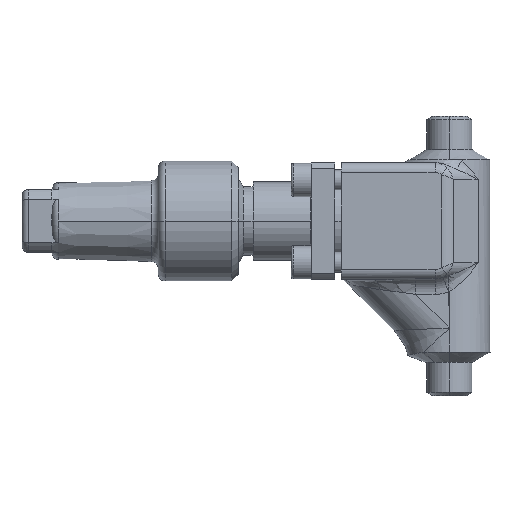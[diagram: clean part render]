
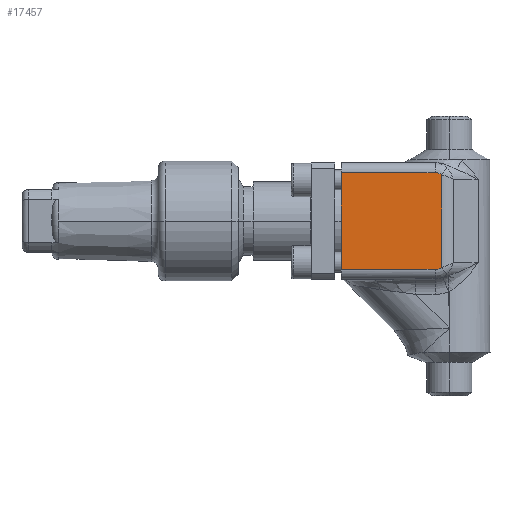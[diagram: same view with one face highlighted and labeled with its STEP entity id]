
A CAD part, left-side view. The second image highlights one B-rep face of the part: STEP entity #17457.
In plain terms, the highlighted planar face has unit normal (-1, 0, 0).
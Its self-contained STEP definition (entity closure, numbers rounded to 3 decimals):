
#16419 = EDGE_CURVE ( 'NONE', #7406, #16323, #3726, .T. ) ;
#16508 = ORIENTED_EDGE ( 'NONE', *, *, #16419, .T. ) ;
#174 = VERTEX_POINT ( 'NONE', #14488 ) ;
#392 = EDGE_CURVE ( 'NONE', #1266, #174, #14590, .T. ) ;
#515 = EDGE_CURVE ( 'NONE', #16323, #16214, #14660, .T. ) ;
#747 = ORIENTED_EDGE ( 'NONE', *, *, #392, .T. ) ;
#17457 = ADVANCED_FACE ( 'NONE', ( #5364 ), #5365, .T. ) ;
#17589 = ORIENTED_EDGE ( 'NONE', *, *, #6649, .F. ) ;
#1266 = VERTEX_POINT ( 'NONE', #16117 ) ;
#1492 = EDGE_CURVE ( 'NONE', #3293, #1266, #16292, .T. ) ;
#1639 = LINE ( 'NONE', #1640, #1641 ) ;
#1640 = CARTESIAN_POINT ( 'NONE',  ( -17.5, 2.318, -35. ) ) ;
#1641 = VECTOR ( 'NONE', #1642, 1000. ) ;
#1642 = DIRECTION ( 'NONE',  ( 0., 0., 1. ) ) ;
#3293 = VERTEX_POINT ( 'NONE', #3903 ) ;
#3627 = CARTESIAN_POINT ( 'NONE',  ( -17.5, 4.318, -32. ) ) ;
#3726 = LINE ( 'NONE', #3727, #3728 ) ;
#3727 = CARTESIAN_POINT ( 'NONE',  ( -17.5, 0.247, -32. ) ) ;
#3728 = VECTOR ( 'NONE', #3729, 1000. ) ;
#3729 = DIRECTION ( 'NONE',  ( 0., -1., 0. ) ) ;
#3903 = CARTESIAN_POINT ( 'NONE',  ( -17.5, 2.318, -3.586 ) ) ;
#5364 = FACE_OUTER_BOUND ( 'NONE', #11725, .T. ) ;
#5365 = PLANE ( 'NONE',  #5366 ) ;
#5366 = AXIS2_PLACEMENT_3D ( 'NONE', #5367, #5368, #5370 ) ;
#5367 = CARTESIAN_POINT ( 'NONE',  ( -17.5, 32.5, -35. ) ) ;
#5368 = DIRECTION ( 'NONE',  ( -1., 0., 0. ) ) ;
#5370 = DIRECTION ( 'NONE',  ( 0., -1., 0. ) ) ;
#6649 = EDGE_CURVE ( 'NONE', #7406, #174, #13665, .T. ) ;
#7207 = ORIENTED_EDGE ( 'NONE', *, *, #1492, .T. ) ;
#7406 = VERTEX_POINT ( 'NONE', #14010 ) ;
#9418 = ORIENTED_EDGE ( 'NONE', *, *, #515, .T. ) ;
#11708 = EDGE_CURVE ( 'NONE', #16214, #3293, #1639, .T. ) ;
#11725 = EDGE_LOOP ( 'NONE', ( #16508, #9418, #11801, #7207, #747, #17589 ) ) ;
#11801 = ORIENTED_EDGE ( 'NONE', *, *, #11708, .T. ) ;
#13665 = LINE ( 'NONE', #13666, #13673 ) ;
#13666 = CARTESIAN_POINT ( 'NONE',  ( -17.5, 32.5, -35. ) ) ;
#13673 = VECTOR ( 'NONE', #13674, 1000. ) ;
#13674 = DIRECTION ( 'NONE',  ( 0., 0., 1. ) ) ;
#14010 = CARTESIAN_POINT ( 'NONE',  ( -17.5, 32.5, -32. ) ) ;
#14055 = CARTESIAN_POINT ( 'NONE',  ( -17.5, 2.318, -31.414 ) ) ;
#14488 = CARTESIAN_POINT ( 'NONE',  ( -17.5, 32.5, -3. ) ) ;
#14590 = LINE ( 'NONE', #14591, #14592 ) ;
#14591 = CARTESIAN_POINT ( 'NONE',  ( -17.5, 32.5, -3. ) ) ;
#14592 = VECTOR ( 'NONE', #14593, 1000. ) ;
#14593 = DIRECTION ( 'NONE',  ( 0., 1., 0. ) ) ;
#14660 =( BOUNDED_CURVE ( )  B_SPLINE_CURVE ( 3, ( #14661, #14662, #14663, #14664 ),
 .UNSPECIFIED., .F., .F. ) 
 B_SPLINE_CURVE_WITH_KNOTS ( ( 4, 4 ),
 ( 1.571, 2.356 ),
 .UNSPECIFIED. ) 
 CURVE ( )  GEOMETRIC_REPRESENTATION_ITEM ( )  RATIONAL_B_SPLINE_CURVE ( ( 1., 0.949, 0.949, 1. ) ) 
 REPRESENTATION_ITEM ( '' )  );
#14661 = CARTESIAN_POINT ( 'NONE',  ( -17.5, 4.318, -32. ) ) ;
#14662 = CARTESIAN_POINT ( 'NONE',  ( -17.5, 3.557, -32. ) ) ;
#14663 = CARTESIAN_POINT ( 'NONE',  ( -17.5, 2.855, -31.794 ) ) ;
#14664 = CARTESIAN_POINT ( 'NONE',  ( -17.5, 2.318, -31.414 ) ) ;
#16117 = CARTESIAN_POINT ( 'NONE',  ( -17.5, 4.318, -3. ) ) ;
#16214 = VERTEX_POINT ( 'NONE', #14055 ) ;
#16292 =( BOUNDED_CURVE ( )  B_SPLINE_CURVE ( 3, ( #16293, #16294, #16295, #16296 ),
 .UNSPECIFIED., .F., .F. ) 
 B_SPLINE_CURVE_WITH_KNOTS ( ( 4, 4 ),
 ( 0.785, 1.571 ),
 .UNSPECIFIED. ) 
 CURVE ( )  GEOMETRIC_REPRESENTATION_ITEM ( )  RATIONAL_B_SPLINE_CURVE ( ( 1., 0.949, 0.949, 1. ) ) 
 REPRESENTATION_ITEM ( '' )  );
#16293 = CARTESIAN_POINT ( 'NONE',  ( -17.5, 2.318, -3.586 ) ) ;
#16294 = CARTESIAN_POINT ( 'NONE',  ( -17.5, 2.855, -3.206 ) ) ;
#16295 = CARTESIAN_POINT ( 'NONE',  ( -17.5, 3.557, -3. ) ) ;
#16296 = CARTESIAN_POINT ( 'NONE',  ( -17.5, 4.318, -3. ) ) ;
#16323 = VERTEX_POINT ( 'NONE', #3627 ) ;
